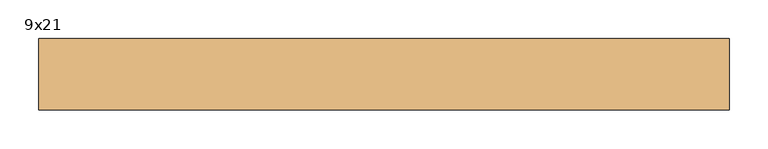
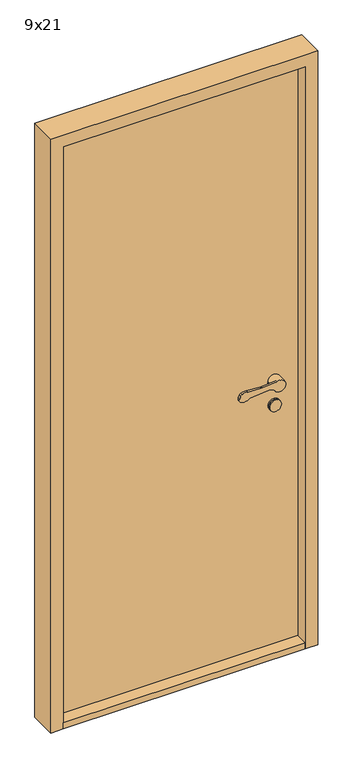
"""IFC4 building model written with IfcOpenShell, lengths in millimetres: door geometry, Innerdør Slett (Diplomat) : 9x21."""

from ifc_helpers import new_model, si_unit, point, frame, frame_2d, origin, origin_with_axes, place, context, project, spatial, polyline, circle_curve, trimmed, segment, composite_curve, outline, extrude, source, transform, mapped, element, save
from ifc_brep_helpers import plane_surface, cylinder_surface, revolved_surface, advanced_brep


def door_9x21_6e912585(model_context):
    return source(origin(), model_context, "Body", "SolidModel", [
        advanced_brep(
        [(343.9611305, 40.0, 949.1175955), (358.3841161, 40.0, 942.6204086), (396.379633, 40.0, 951.3474568), (367.2687793, 40.0, 969.1517356), (318.6891233, 40.0, 964.26032), (313.6202158, 40.0, 964.1804415), (268.8963175, 40.0, 967.2639242), (250.3175669, 40.0, 964.8810513), (245.505009, 40.0, 959.9624074), (241.8691983, 40.0, 951.8913379), (246.721536, 40.0, 938.7393398), (276.0476109, 40.0, 943.6260011), (338.8520664, 40.0, 949.9496913), (318.6891233, 47.1084716, 964.26032), (367.2687793, 47.1084716, 969.1517356), (356.379633, 47.1084716, 951.3474568), (358.3841161, 47.1084716, 942.6204086), (343.9611305, 47.1084716, 949.1175955), (338.8520664, 47.1084716, 949.9496913), (276.0476109, 47.1084716, 943.6260011), (246.721536, 47.1084716, 938.7393398), (241.8691983, 47.1084716, 951.8913379), (245.505009, 47.1084716, 959.9624074), (250.3175669, 47.1084716, 964.8810513), (268.8963175, 47.1084716, 967.2639242), (313.6202158, 47.1084716, 964.1804415), (396.379633, 75.0, 951.3474568), (356.379633, 75.0, 951.3474568)],
        [
            (0, 1),
            (1, 2, circle_curve(frame((376.379633, 40.0, 951.3474568), z_axis=(0.0, -1.0, 0.0), x_axis=(-1.0, 0.0, 0.0)), 20.0)),
            (2, 3, circle_curve(frame((376.379633, 40.0, 951.3474568), z_axis=(0.0, -1.0, 0.0), x_axis=(-1.0, 0.0, 0.0)), 20.0)),
            (3, 4),
            (4, 5, circle_curve(frame((315.683663, 40.0, 994.1093938), z_axis=(0.0, 1.0, 0.0), x_axis=(-0.9949691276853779, 0.0, -0.10018200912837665)), 30.0)),
            (5, 6),
            (6, 7, circle_curve(frame((263.2326797, 40.0, 937.8033877), z_axis=(0.0, -1.0, 0.0), x_axis=(-0.9949691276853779, 0.0, -0.10018200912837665)), 30.0)),
            (7, 8, circle_curve(frame((254.6226045, 40.0, 955.8551634), z_axis=(0.0, -1.0, 0.0), x_axis=(-0.9949691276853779, 0.0, -0.10018200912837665)), 10.0)),
            (8, 9),
            (9, 10, circle_curve(frame((250.9867937, 40.0, 947.7840939), z_axis=(0.0, -1.0, 0.0), x_axis=(-0.9949691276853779, 0.0, -0.10018200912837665)), 10.0)),
            (10, 11, circle_curve(frame((257.8569644, 40.0, 962.352734), z_axis=(0.0, -1.0, 0.0), x_axis=(-0.9949691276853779, 0.0, -0.10018200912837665)), 26.1072815)),
            (11, 12),
            (12, 0, circle_curve(frame((339.8538865, 40.0, 940.0), z_axis=(0.0, 1.0, 0.0), x_axis=(-0.9949691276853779, 0.0, -0.10018200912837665)), 10.0)),
            (13, 14),
            (14, 15, circle_curve(frame((376.379633, 47.1084716, 951.3474568), z_axis=(0.0, -1.0, 0.0), x_axis=(-1.0, 0.0, 0.0)), 20.0)),
            (15, 16, circle_curve(frame((376.379633, 47.1084716, 951.3474568), z_axis=(0.0, -1.0, 0.0), x_axis=(-1.0, 0.0, 0.0)), 20.0)),
            (16, 17),
            (17, 18, circle_curve(frame((339.8538865, 47.1084716, 940.0), z_axis=(0.0, -1.0, 0.0), x_axis=(-0.9949691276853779, 0.0, -0.10018200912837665)), 10.0)),
            (18, 19),
            (19, 20, circle_curve(frame((257.8569644, 47.1084716, 962.352734), z_axis=(0.0, 1.0, 0.0), x_axis=(-0.9949691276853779, 0.0, -0.10018200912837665)), 26.1072815)),
            (20, 21, circle_curve(frame((250.9867937, 47.1084716, 947.7840939), z_axis=(0.0, 1.0, 0.0), x_axis=(-0.9949691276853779, 0.0, -0.10018200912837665)), 10.0)),
            (21, 22),
            (22, 23, circle_curve(frame((254.6226045, 47.1084716, 955.8551634), z_axis=(0.0, 1.0, 0.0), x_axis=(-0.9949691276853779, 0.0, -0.10018200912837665)), 10.0)),
            (23, 24, circle_curve(frame((263.2326797, 47.1084716, 937.8033877), z_axis=(0.0, 1.0, 0.0), x_axis=(-0.9949691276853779, 0.0, -0.10018200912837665)), 30.0)),
            (24, 25),
            (25, 13, circle_curve(frame((315.683663, 47.1084716, 994.1093938), z_axis=(0.0, -1.0, 0.0), x_axis=(-0.9949691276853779, 0.0, -0.10018200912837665)), 30.0)),
            (3, 14),
            (13, 4),
            (16, 1),
            (0, 17),
            (12, 18),
            (11, 19),
            (10, 20),
            (9, 21),
            (8, 22),
            (7, 23),
            (6, 24),
            (5, 25),
            (26, 27, circle_curve(frame((376.379633, 75.0, 951.3474568), z_axis=(0.0, 1.0, 0.0), x_axis=(-1.0, 0.0, 0.0)), 20.0)),
            (27, 26, circle_curve(frame((376.379633, 75.0, 951.3474568), z_axis=(0.0, 1.0, 0.0), x_axis=(-1.0, 0.0, 0.0)), 20.0)),
            (26, 2),
            (15, 27),
        ],
        [
            plane_surface(frame((367.6960588, 40.0, 969.1947577), z_axis=(0.0, -1.0000000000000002, 0.0), x_axis=(0.9949691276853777, 0.0, 0.10018200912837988))),
            plane_surface(frame((367.6960588, 47.1084716, 969.1947577), z_axis=(0.0, 1.0000000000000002, 0.0), x_axis=(-0.9949691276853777, 0.0, -0.10018200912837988))),
            plane_surface(frame((318.6891233, 40.0, 964.26032), z_axis=(-0.10018200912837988, 0.0, 0.9949691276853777), x_axis=(0.0, 1.0, 0.0))),
            plane_surface(frame((376.9687366, 40.0, 934.2485115), z_axis=(-0.41072439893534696, 0.0, -0.91175954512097), x_axis=(0.0, 1.0, 0.0))),
            revolved_surface(polyline([(329.9041952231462, 47.1084716, 938.9981799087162), (329.9041952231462, 40.0, 938.9981799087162)]), (339.8538865, 47.1084716, 940.0), (0.0, 1.0, 0.0)),
            plane_surface(frame((338.8520664, 40.0, 949.9496913), z_axis=(0.10018200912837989, 0.0, -0.9949691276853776), x_axis=(0.0, 1.0, 0.0))),
            cylinder_surface(frame((257.8569644, 47.1084716, 962.352734), z_axis=(0.0, -1.0, 0.0), x_axis=(-0.9949691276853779, 0.0, -0.10018200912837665)), 26.1072815),
            cylinder_surface(frame((250.9867937, 47.1084716, 947.7840939), z_axis=(0.0, -1.0, 0.0), x_axis=(-0.9949691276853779, 0.0, -0.10018200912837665)), 10.0),
            plane_surface(frame((241.8691983, 40.0, 951.8913379), z_axis=(-0.9117595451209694, 0.0, 0.41072439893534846), x_axis=(0.0, 1.0, 0.0))),
            cylinder_surface(frame((254.6226045, 47.1084716, 955.8551634), z_axis=(0.0, -1.0, 0.0), x_axis=(-0.9949691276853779, 0.0, -0.10018200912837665)), 10.0),
            cylinder_surface(frame((263.2326797, 47.1084716, 937.8033877), z_axis=(0.0, -1.0, 0.0), x_axis=(-0.9949691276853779, 0.0, -0.10018200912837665)), 30.0),
            plane_surface(frame((268.8963175, 40.0, 967.2639242), z_axis=(0.06878157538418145, 0.0, 0.9976317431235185), x_axis=(0.0, 1.0, 0.0))),
            revolved_surface(polyline([(285.8345891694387, 47.1084716, 991.1039335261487), (285.8345891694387, 40.0, 991.1039335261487)]), (315.683663, 47.1084716, 994.1093938), (0.0, 1.0, 0.0)),
            plane_surface(frame((356.379633, 75.0, 951.3474568), z_axis=(0.0, 1.0, 0.0), x_axis=(0.0, 0.0, -1.0))),
            cylinder_surface(frame((376.379633, 75.0, 951.3474568), z_axis=(0.0, -1.0, 0.0), x_axis=(-1.0, 0.0, 0.0)), 20.0),
        ],
        [
            (0, [[1, 2, 3, 4, 5, 6, 7, 8, 9, 10, 11, 12, 13]]),
            (1, [[14, 15, 16, 17, 18, 19, 20, 21, 22, 23, 24, 25, 26]]),
            (2, [[-4, 27, -14, 28]]),
            (3, [[-17, 29, -1, 30]]),
            (4, [[31, -18, -30, -13]]),
            (5, [[32, -19, -31, -12]]),
            (6, [[33, -20, -32, -11]]),
            (7, [[34, -21, -33, -10]]),
            (8, [[35, -22, -34, -9]]),
            (9, [[36, -23, -35, -8]]),
            (10, [[37, -24, -36, -7]]),
            (11, [[38, -25, -37, -6]]),
            (12, [[-28, -26, -38, -5]]),
            (13, [[39, 40]]),
            (14, [[41, -2, -29, -16, 42, -39]]),
            (14, [[-42, -15, -27, -3, -41, -40]]),
        ],
    ),
        extrude(outline(composite_curve([segment(trimmed(circle_curve(frame_2d((866.3474568, 376.379633)), 20.0), [point((866.3474568, 396.379633))], [point((866.3474568, 356.379633))], False, "CARTESIAN"), True, "CONTINUOUS"), segment(trimmed(circle_curve(frame_2d((866.3474568, 376.379633)), 20.0), [point((866.3474568, 356.379633))], [point((866.3474568, 396.379633))], False, "CARTESIAN"), True, "CONTINUOUS")], self_intersect=False)), frame((0.0, 70.0, 0.0), z_axis=(0.0, 1.0, 0.0), x_axis=(0.0, 0.0, 1.0)), (0.0, 0.0, 1.0), 5.0),
        advanced_brep(
        [(343.9611305, 100.0, 949.1175955), (338.8520664, 100.0, 949.9496913), (276.0476109, 100.0, 943.6260011), (246.721536, 100.0, 938.7393398), (241.8691983, 100.0, 951.8913379), (245.505009, 100.0, 959.9624074), (250.3175669, 100.0, 964.8810513), (268.8963175, 100.0, 967.2639242), (313.6202158, 100.0, 964.1804415), (318.6891233, 100.0, 964.26032), (367.2687793, 100.0, 969.1517356), (396.379633, 100.0, 951.3474568), (358.3841161, 100.0, 942.6204086), (318.6891233, 92.8915284, 964.26032), (313.6202158, 92.8915284, 964.1804415), (268.8963175, 92.8915284, 967.2639242), (250.3175669, 92.8915284, 964.8810513), (245.505009, 92.8915284, 959.9624074), (241.8691983, 92.8915284, 951.8913379), (246.721536, 92.8915284, 938.7393398), (276.0476109, 92.8915284, 943.6260011), (338.8520664, 92.8915284, 949.9496913), (343.9611305, 92.8915284, 949.1175955), (358.3841161, 92.8915284, 942.6204086), (356.379633, 92.8915284, 951.3474568), (367.2687793, 92.8915284, 969.1517356), (396.379633, 65.0, 951.3474568), (356.379633, 65.0, 951.3474568)],
        [
            (0, 1, circle_curve(frame((339.8538865, 100.0, 940.0), z_axis=(0.0, -1.0, 0.0), x_axis=(-0.9949691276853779, 0.0, -0.10018200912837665)), 10.0)),
            (1, 2),
            (2, 3, circle_curve(frame((257.8569644, 100.0, 962.352734), z_axis=(0.0, 1.0, 0.0), x_axis=(-0.9949691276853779, 0.0, -0.10018200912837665)), 26.1072815)),
            (3, 4, circle_curve(frame((250.9867937, 100.0, 947.7840939), z_axis=(0.0, 1.0, 0.0), x_axis=(-0.9949691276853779, 0.0, -0.10018200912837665)), 10.0)),
            (4, 5),
            (5, 6, circle_curve(frame((254.6226045, 100.0, 955.8551634), z_axis=(0.0, 1.0, 0.0), x_axis=(-0.9949691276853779, 0.0, -0.10018200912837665)), 10.0)),
            (6, 7, circle_curve(frame((263.2326797, 100.0, 937.8033877), z_axis=(0.0, 1.0, 0.0), x_axis=(-0.9949691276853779, 0.0, -0.10018200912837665)), 30.0)),
            (7, 8),
            (8, 9, circle_curve(frame((315.683663, 100.0, 994.1093938), z_axis=(0.0, -1.0, 0.0), x_axis=(-0.9949691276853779, 0.0, -0.10018200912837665)), 30.0)),
            (9, 10),
            (10, 11, circle_curve(frame((376.379633, 100.0, 951.3474568), z_axis=(0.0, 1.0, 0.0), x_axis=(-1.0, 0.0, 0.0)), 20.0)),
            (11, 12, circle_curve(frame((376.379633, 100.0, 951.3474568), z_axis=(0.0, 1.0, 0.0), x_axis=(-1.0, 0.0, 0.0)), 20.0)),
            (12, 0),
            (13, 14, circle_curve(frame((315.683663, 92.8915284, 994.1093938), z_axis=(0.0, 1.0, 0.0), x_axis=(-0.9949691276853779, 0.0, -0.10018200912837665)), 30.0)),
            (14, 15),
            (15, 16, circle_curve(frame((263.2326797, 92.8915284, 937.8033877), z_axis=(0.0, -1.0, 0.0), x_axis=(-0.9949691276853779, 0.0, -0.10018200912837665)), 30.0)),
            (16, 17, circle_curve(frame((254.6226045, 92.8915284, 955.8551634), z_axis=(0.0, -1.0, 0.0), x_axis=(-0.9949691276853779, 0.0, -0.10018200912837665)), 10.0)),
            (17, 18),
            (18, 19, circle_curve(frame((250.9867937, 92.8915284, 947.7840939), z_axis=(0.0, -1.0, 0.0), x_axis=(-0.9949691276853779, 0.0, -0.10018200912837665)), 10.0)),
            (19, 20, circle_curve(frame((257.8569644, 92.8915284, 962.352734), z_axis=(0.0, -1.0, 0.0), x_axis=(-0.9949691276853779, 0.0, -0.10018200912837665)), 26.1072815)),
            (20, 21),
            (21, 22, circle_curve(frame((339.8538865, 92.8915284, 940.0), z_axis=(0.0, 1.0, 0.0), x_axis=(-0.9949691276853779, 0.0, -0.10018200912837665)), 10.0)),
            (22, 23),
            (23, 24, circle_curve(frame((376.379633, 92.8915284, 951.3474568), z_axis=(0.0, 1.0, 0.0), x_axis=(-1.0, 0.0, 0.0)), 20.0)),
            (24, 25, circle_curve(frame((376.379633, 92.8915284, 951.3474568), z_axis=(0.0, 1.0, 0.0), x_axis=(-1.0, 0.0, 0.0)), 20.0)),
            (25, 13),
            (9, 13),
            (25, 10),
            (22, 0),
            (12, 23),
            (21, 1),
            (20, 2),
            (19, 3),
            (18, 4),
            (17, 5),
            (16, 6),
            (15, 7),
            (14, 8),
            (26, 27, circle_curve(frame((376.379633, 65.0, 951.3474568), z_axis=(0.0, -1.0, 0.0), x_axis=(-1.0, 0.0, 0.0)), 20.0)),
            (27, 26, circle_curve(frame((376.379633, 65.0, 951.3474568), z_axis=(0.0, -1.0, 0.0), x_axis=(-1.0, 0.0, 0.0)), 20.0)),
            (27, 24),
            (11, 26),
        ],
        [
            plane_surface(frame((367.6960588, 100.0, 969.1947577), z_axis=(0.0, 1.0000000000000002, 0.0), x_axis=(0.9949691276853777, 0.0, 0.10018200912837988))),
            plane_surface(frame((367.6960588, 92.8915284, 969.1947577), z_axis=(0.0, -1.0000000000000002, 0.0), x_axis=(-0.9949691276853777, 0.0, -0.10018200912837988))),
            plane_surface(frame((318.6891233, 100.0, 964.26032), z_axis=(-0.10018200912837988, 0.0, 0.9949691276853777), x_axis=(0.0, -1.0, 0.0))),
            plane_surface(frame((376.9687366, 100.0, 934.2485115), z_axis=(-0.41072439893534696, 0.0, -0.91175954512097), x_axis=(0.0, -1.0, 0.0))),
            revolved_surface(polyline([(329.9041952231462, 92.8915284, 938.9981799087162), (329.9041952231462, 100.0, 938.9981799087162)]), (339.8538865, 92.8915284, 940.0), (0.0, -1.0, 0.0)),
            plane_surface(frame((338.8520664, 100.0, 949.9496913), z_axis=(0.10018200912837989, 0.0, -0.9949691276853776), x_axis=(0.0, -1.0, 0.0))),
            cylinder_surface(frame((257.8569644, 92.8915284, 962.352734), z_axis=(0.0, 1.0, 0.0), x_axis=(-0.9949691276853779, 0.0, -0.10018200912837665)), 26.1072815),
            cylinder_surface(frame((250.9867937, 92.8915284, 947.7840939), z_axis=(0.0, 1.0, 0.0), x_axis=(-0.9949691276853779, 0.0, -0.10018200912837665)), 10.0),
            plane_surface(frame((241.8691983, 100.0, 951.8913379), z_axis=(-0.9117595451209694, 0.0, 0.41072439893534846), x_axis=(0.0, -1.0, 0.0))),
            cylinder_surface(frame((254.6226045, 92.8915284, 955.8551634), z_axis=(0.0, 1.0, 0.0), x_axis=(-0.9949691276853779, 0.0, -0.10018200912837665)), 10.0),
            cylinder_surface(frame((263.2326797, 92.8915284, 937.8033877), z_axis=(0.0, 1.0, 0.0), x_axis=(-0.9949691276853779, 0.0, -0.10018200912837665)), 30.0),
            plane_surface(frame((268.8963175, 100.0, 967.2639242), z_axis=(0.06878157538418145, 0.0, 0.9976317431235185), x_axis=(0.0, -1.0, 0.0))),
            revolved_surface(polyline([(285.8345891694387, 92.8915284, 991.1039335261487), (285.8345891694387, 100.0, 991.1039335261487)]), (315.683663, 92.8915284, 994.1093938), (0.0, -1.0, 0.0)),
            plane_surface(frame((356.379633, 65.0, 951.3474568), z_axis=(0.0, -1.0, 0.0), x_axis=(0.0, 0.0, -1.0))),
            cylinder_surface(frame((376.379633, 65.0, 951.3474568), z_axis=(0.0, 1.0, 0.0), x_axis=(-1.0, 0.0, 0.0)), 20.0),
        ],
        [
            (0, [[1, 2, 3, 4, 5, 6, 7, 8, 9, 10, 11, 12, 13]]),
            (1, [[14, 15, 16, 17, 18, 19, 20, 21, 22, 23, 24, 25, 26]]),
            (2, [[27, -26, 28, -10]]),
            (3, [[29, -13, 30, -23]]),
            (4, [[-1, -29, -22, 31]]),
            (5, [[-2, -31, -21, 32]]),
            (6, [[-3, -32, -20, 33]]),
            (7, [[-4, -33, -19, 34]]),
            (8, [[-5, -34, -18, 35]]),
            (9, [[-6, -35, -17, 36]]),
            (10, [[-7, -36, -16, 37]]),
            (11, [[-8, -37, -15, 38]]),
            (12, [[-9, -38, -14, -27]]),
            (13, [[39, 40]]),
            (14, [[-40, 41, -24, -30, -12, 42]]),
            (14, [[-39, -42, -11, -28, -25, -41]]),
        ],
    ),
        extrude(outline(composite_curve([segment(trimmed(circle_curve(frame_2d((866.3474568, 376.379633)), 20.0), [point((866.3474568, 396.379633))], [point((866.3474568, 356.379633))], False, "CARTESIAN"), True, "CONTINUOUS"), segment(trimmed(circle_curve(frame_2d((866.3474568, 376.379633)), 20.0), [point((866.3474568, 356.379633))], [point((866.3474568, 396.379633))], False, "CARTESIAN"), True, "CONTINUOUS")], self_intersect=False)), frame((0.0, 65.0, 0.0), z_axis=(0.0, 1.0, 0.0), x_axis=(0.0, 0.0, 1.0)), (0.0, 0.0, 1.0), 5.0),
        extrude(outline(polyline([(456.379633, 33.0), (-349.620367, 33.0), (-349.620367, 125.0), (456.379633, 125.0), (456.379633, 33.0)])), origin_with_axes(), (0.0, 0.0, 1.0), 22.0),
        extrude(outline(polyline([(456.379633, 75.0), (-349.620367, 75.0), (-349.620367, 125.0), (456.379633, 125.0), (456.379633, 75.0)])), frame((0.0, 0.0, 22.0), z_axis=(0.0, 0.0, 1.0), x_axis=(1.0, 0.0, 0.0)), (0.0, 0.0, 1.0), 2031.0),
        extrude(outline(polyline([(0.0, -391.620367), (0.0, -349.620367), (2053.0, -349.620367), (2053.0, 456.379633), (0.0, 456.379633), (0.0, 498.379633), (2095.0, 498.379633), (2095.0, -391.620367), (0.0, -391.620367)])), frame((0.0, 33.0, 0.0), z_axis=(0.0, 1.0, 0.0), x_axis=(0.0, 0.0, 1.0)), (0.0, 0.0, 1.0), 92.0),
    ])


if __name__ == "__main__":
    model = new_model("IFC4")
    model_context = context("Model", 3, world=origin())
    ifc_project = project(units=[si_unit("LENGTHUNIT", "METRE", prefix="MILLI")], contexts=[model_context])
    site = spatial("IfcSite", under=ifc_project)
    building = spatial("IfcBuilding", under=site)
    placement = place(None, origin())
    door_9x21_shape = door_9x21_6e912585(model_context)
    element("IfcDoor", 1, ObjectType="Innerdør Slett (Diplomat) : 9x21", at=placement, inside=building, context=model_context, shape_type="MappedRepresentation", body=[
        mapped(door_9x21_shape, transform((0.0, 0.0, 0.0), x_axis=(1.0, 0.0, 0.0), y_axis=(0.0, 1.0, 0.0), z_axis=(0.0, 0.0, 1.0))),
    ])
    save(model, "model.ifc")
